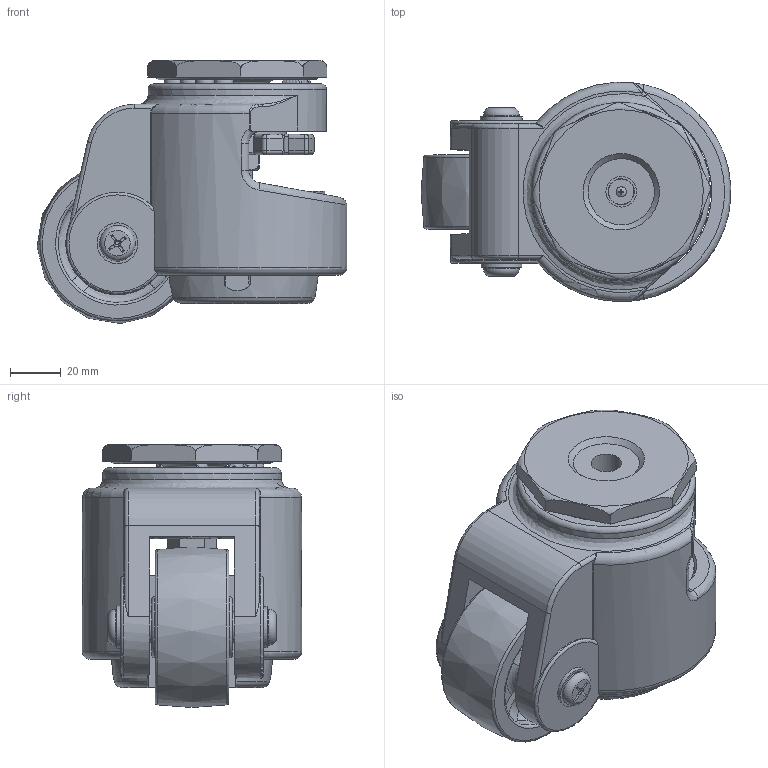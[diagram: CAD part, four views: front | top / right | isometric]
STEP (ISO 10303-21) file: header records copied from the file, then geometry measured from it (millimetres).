
FILE_DESCRIPTION((' '),'2;1');
FILE_NAME('Y:\00. A standard brand\06. 3D Modeling\외부전송용_STEP\CARRYMASTER(STEP)\AC-600S.stp.stp','2011-11-22T13:39:05',(' '),(' '),' ','ACIS',' ');
FILE_SCHEMA(('CONFIG_CONTROL_DESIGN'));
Length unit declared in the file: millimetre
Products named in the file (1): Y:\00. A standard brand\06. 3D Modeling\외부전송용_STEP\CARRYMASTER(STEP)\AC-600S.stp.stp
Bounding box: 121.47 x 86 x 103.17 mm (x, y, z)
Volume: 417555.5 mm3; surface area: 112566.1 mm2
Topology: 5 solids, 9 shells, 706 faces, 1758 edges, 1066 vertices
Faces by surface type: plane 254, cylinder 211, bspline 95, sphere 69, torus 61, cone 16
Full cylindrical faces by diameter (mm): 1.6 x1, 2 x2, 3 x1, 4 x1, 8 x2, 10 x1, 12 x3, 12.2 x1, 12.9 x2, 14 x2, 16 x1, 16.5 x1, 20 x2, 24 x3, 25 x1, 30 x1, 38.5 x1, 40.02 x1, 41.22 x1, 41.5 x1, 46.5 x2, 70 x1
Entity records: 24642 total; most frequent: CARTESIAN_POINT 8654, DIRECTION 3404, ORIENTED_EDGE 3212, EDGE_CURVE 1606, AXIS2_PLACEMENT_3D 1370, VERTEX_POINT 1006, EDGE_LOOP 826, CIRCLE 723
